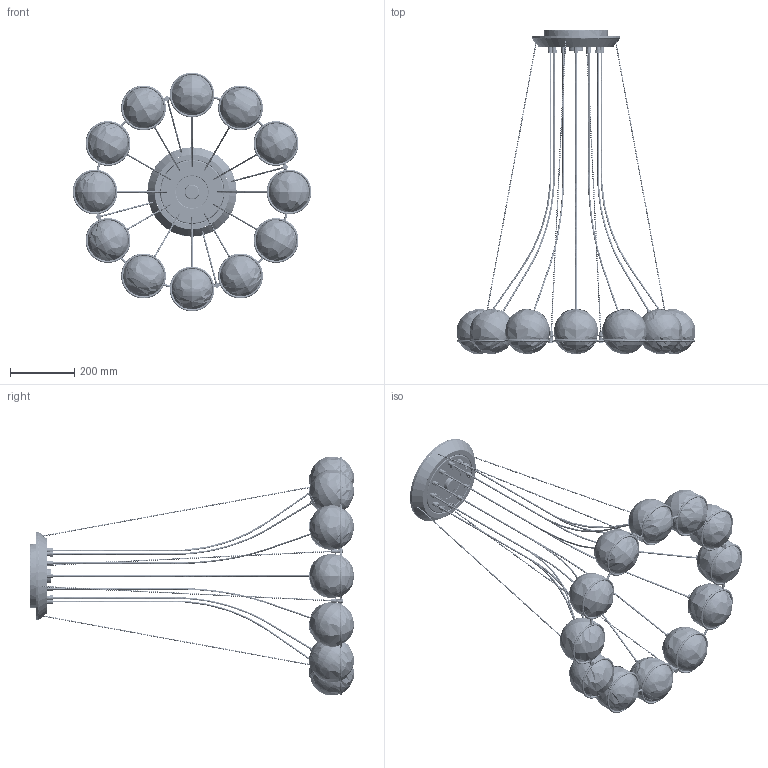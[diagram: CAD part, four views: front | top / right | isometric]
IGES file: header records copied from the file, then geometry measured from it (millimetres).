
Start section: SolidWorks IGES file using analytic representation for surfaces
Global section: file name: G:\Drive condivisi\Public\Astep Downloads\CAD\Model 2109-12-14\Model 2109 12 14.IGS; native system: SolidWorks 2023; preprocessor: SolidWorks 2023; author: Silvio; date: 240527.145116; units: millimetre
Bounding box: 744.94 x 1011.96 x 744.94 mm (x, y, z)
Surface area: 2195458.5 mm2 (no closed solid volume)
Topology: 0 solids, 0 shells, 2418 faces, 30137 edges, 27763 vertices
Faces by surface type: bspline 1829, revolution 589
